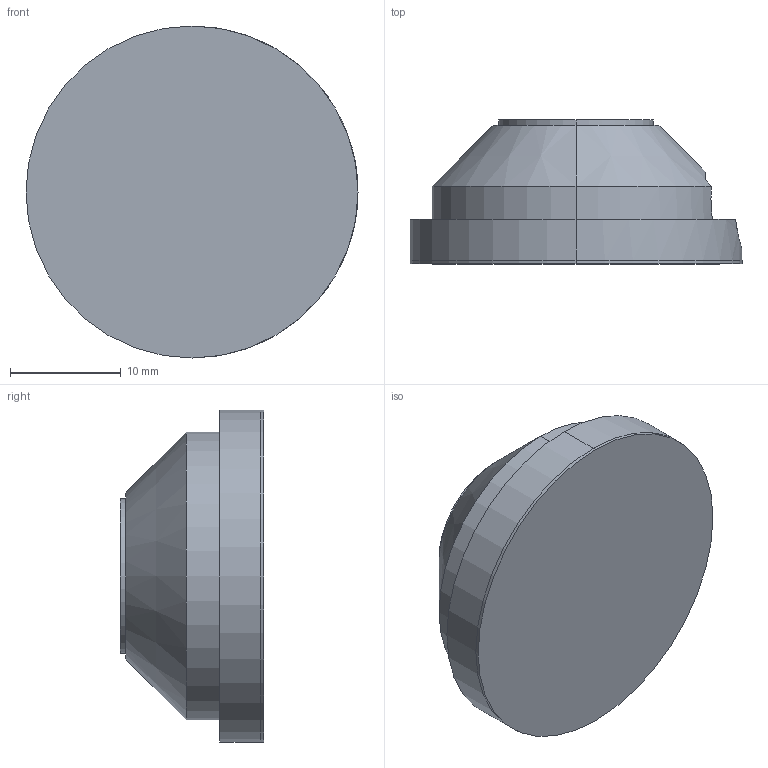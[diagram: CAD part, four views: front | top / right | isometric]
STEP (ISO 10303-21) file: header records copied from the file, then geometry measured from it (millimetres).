
FILE_DESCRIPTION (( 'STEP AP203' ), '1' );
FILE_NAME ('EZ-0053-030 Standardlager Bestell-Nr. 0004738.STEP', '2021-09-16T15:22:12', ( '' ), ( '' ), 'SwSTEP 2.0', 'SolidWorks 2021', '' );
FILE_SCHEMA (( 'CONFIG_CONTROL_DESIGN' ));
Length unit declared in the file: millimetre
Products named in the file (1): EZ-0053-030 Standardlager  Bestell-Nr. 0004738
Bounding box: 30 x 13 x 30 mm (x, y, z)
Volume: 6009.2 mm3; surface area: 4203 mm2
Topology: 4 solids, 4 shells, 98 faces, 224 edges, 138 vertices
Faces by surface type: cylinder 46, plane 26, cone 16, torus 8, sphere 2
Entity records: 2886 total; most frequent: CARTESIAN_POINT 547, DIRECTION 524, ORIENTED_EDGE 432, AXIS2_PLACEMENT_3D 221, EDGE_CURVE 216, VERTEX_POINT 138, CIRCLE 122, EDGE_LOOP 114
